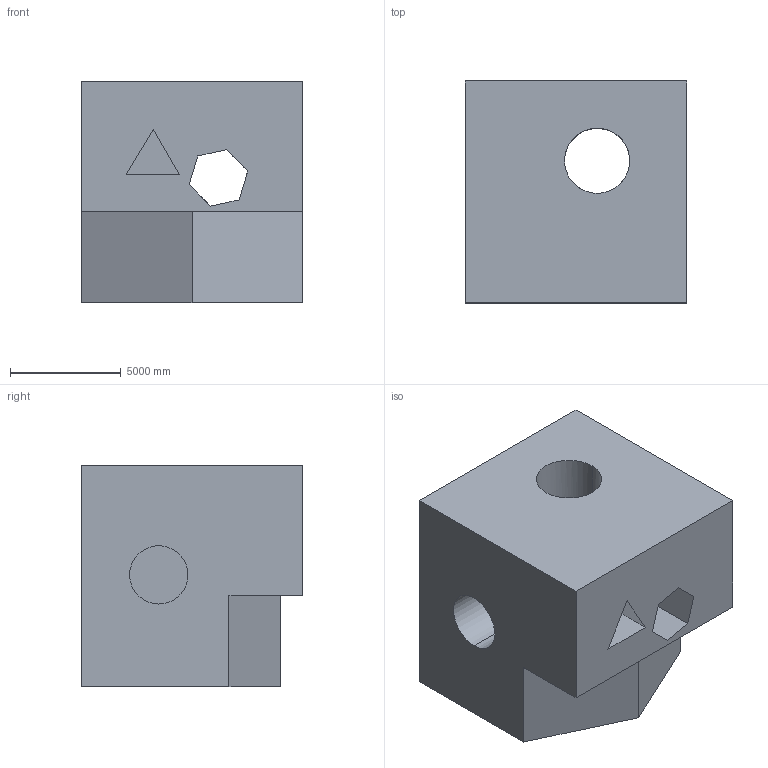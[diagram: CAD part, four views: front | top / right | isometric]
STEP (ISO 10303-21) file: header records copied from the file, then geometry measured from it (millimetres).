
FILE_DESCRIPTION (( 'STEP AP203' ), '1' );
FILE_NAME ('91.STEP', '2022-08-31T11:30:45', ( 'user' ), ( '' ), 'SwSTEP 2.0', 'SolidWorks 2021', '' );
FILE_SCHEMA (( 'CONFIG_CONTROL_DESIGN' ));
Length unit declared in the file: centimetre
Products named in the file (1): 91
Bounding box: 10000 x 10000 x 10000 mm (x, y, z)
Volume: 781330167603.1 mm3; surface area: 752417750.9 mm2
Topology: 1 solids, 1 shells, 28 faces, 78 edges, 52 vertices
Faces by surface type: plane 24, cylinder 4
Entity records: 979 total; most frequent: CARTESIAN_POINT 195, ORIENTED_EDGE 156, DIRECTION 132, EDGE_CURVE 78, VECTOR 58, LINE 58, VERTEX_POINT 52, AXIS2_PLACEMENT_3D 37
